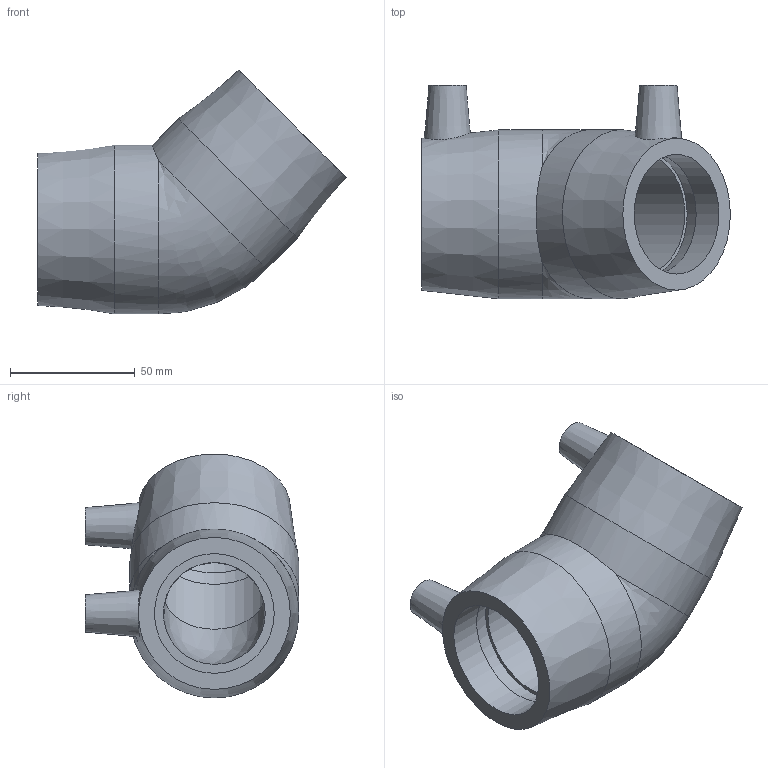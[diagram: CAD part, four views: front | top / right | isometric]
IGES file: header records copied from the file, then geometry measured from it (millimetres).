
Global section: file name: 5906B003015.ipt; native system: Autodesk Inventor 2019; preprocessor: unknown; author: KIM; date: 20210830.101007; units: inch
Bounding box: 123.95 x 85.72 x 97.89 mm (x, y, z)
Volume: 208847.7 mm3; surface area: 49090 mm2
Topology: 1 solids, 1 shells, 30 faces, 68 edges, 46 vertices
Faces by surface type: plane 12, revolution 9, cylinder 4, cone 4, bspline 1
Full cylindrical faces by diameter (mm): 4 x2, 67.818 x2
